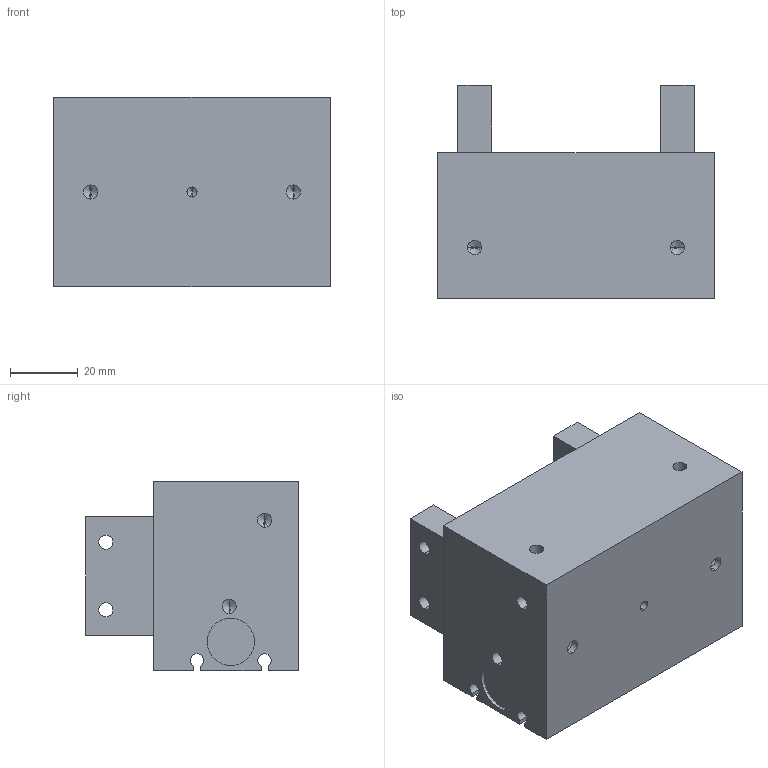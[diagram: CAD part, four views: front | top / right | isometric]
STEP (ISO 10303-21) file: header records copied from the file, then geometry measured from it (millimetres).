
FILE_DESCRIPTION (( 'STEP AP203' ), '1' );
FILE_NAME ('GHU 20 Assemblage2.STEP', '2012-12-14T10:31:26', ( '' ), ( '' ), 'SwSTEP 2.0', 'SolidWorks 2010', '' );
FILE_SCHEMA (( 'CONFIG_CONTROL_DESIGN' ));
Length unit declared in the file: millimetre
Products named in the file (3): CHU 20 DOIGT DROIT; GHU 20 Assemblage2; CHU 20 CORP
Assembly tree (3 placements, depth 2):
  GHU 20 Assemblage2
    CHU 20 CORP
    CHU 20 DOIGT DROIT  x2
Bounding box: 82 x 63 x 56 mm (x, y, z)
Volume: 197715.2 mm3; surface area: 35641 mm2
Topology: 3 solids, 3 shells, 87 faces, 220 edges, 135 vertices
Faces by surface type: plane 37, cylinder 36, cone 14
Entity records: 2470 total; most frequent: DIRECTION 397, CARTESIAN_POINT 366, ORIENTED_EDGE 346, EDGE_CURVE 173, AXIS2_PLACEMENT_3D 144, VERTEX_POINT 113, LINE 109, VECTOR 109
